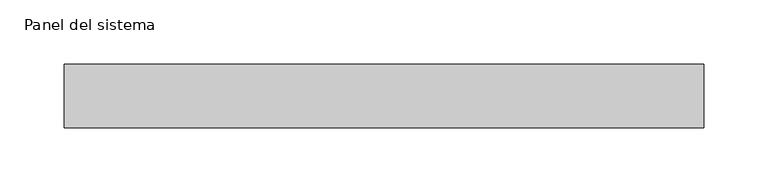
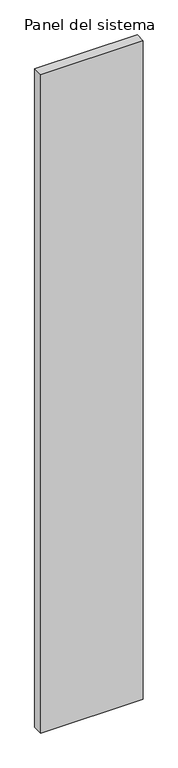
"""IFC4 building model written with IfcOpenShell, lengths in millimetres: plate geometry, Panel del sistema : HIANSA PANEL - PANELES DE CUBIERTA SIN TAPAJUNTA - EASY CUB 5GR ULTRA - Esp. 50mm."""

from ifc_helpers import new_model, si_unit, origin, origin_with_axes, place, context, project, spatial, polyline, outline, extrude, source, transform, mapped, element, save


def panel_del_sistema_deb14117(model_context):
    return source(origin(), model_context, "Body", "SweptSolid", [
        extrude(outline(polyline([(249.9999998, 0.0), (-249.9999998, 0.0), (-249.9999998, 50.0), (249.9999998, 50.0), (249.9999998, 0.0)])), origin_with_axes(), (0.0, 0.0, 1.0), 3390.8509027),
    ])


if __name__ == "__main__":
    model = new_model("IFC4")
    model_context = context("Model", 3, world=origin())
    ifc_project = project(units=[si_unit("LENGTHUNIT", "METRE", prefix="MILLI")], contexts=[model_context])
    site = spatial("IfcSite", under=ifc_project)
    building = spatial("IfcBuilding", under=site)
    placement = place(None, origin())
    panel_del_sistema_shape = panel_del_sistema_deb14117(model_context)
    element("IfcPlate", 1, ObjectType="Panel del sistema : HIANSA PANEL - PANELES DE CUBIERTA SIN TAPAJUNTA - EASY CUB 5GR ULTRA - Esp. 50mm", at=placement, inside=building, context=model_context, shape_type="MappedRepresentation", body=[
        mapped(panel_del_sistema_shape, transform((0.0, 0.0, 0.0), x_axis=(1.0, 0.0, 0.0), y_axis=(0.0, 1.0, 0.0), z_axis=(0.0, 0.0, 1.0))),
    ])
    save(model, "model.ifc")
